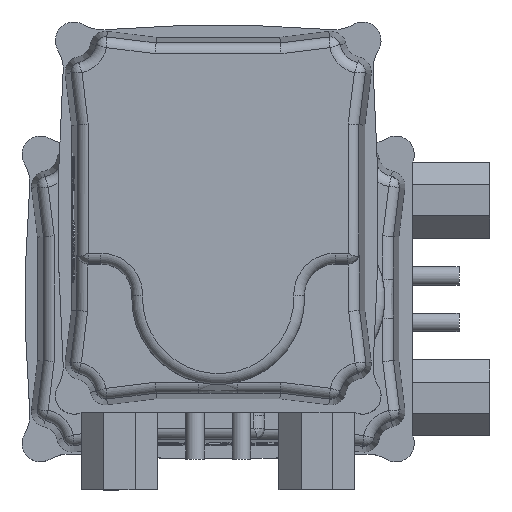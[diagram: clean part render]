
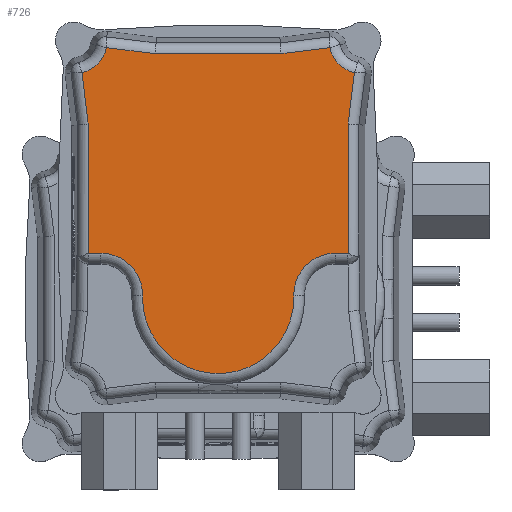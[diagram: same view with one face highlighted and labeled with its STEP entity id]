
A CAD part, top view. The second image highlights one B-rep face of the part: STEP entity #726.
In plain terms, the highlighted planar face has unit normal (0, 0, 1).
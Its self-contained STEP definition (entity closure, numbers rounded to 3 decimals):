
#726 = ADVANCED_FACE( '', ( #1937 ), #1938, .T. );
#1937 = FACE_OUTER_BOUND( '', #4175, .T. );
#1938 = PLANE( '', #4176 );
#4175 = EDGE_LOOP( '', ( #12072, #12073, #12074, #12075, #12076, #12077, #12078, #12079, #12080, #12081, #12082, #12083, #12084, #12085, #12086, #12087 ) );
#4176 = AXIS2_PLACEMENT_3D( '', #12088, #12089, #12090 );
#12072 = ORIENTED_EDGE( '', *, *, #17000, .T. );
#12073 = ORIENTED_EDGE( '', *, *, #17001, .T. );
#12074 = ORIENTED_EDGE( '', *, *, #17002, .T. );
#12075 = ORIENTED_EDGE( '', *, *, #17003, .T. );
#12076 = ORIENTED_EDGE( '', *, *, #17004, .T. );
#12077 = ORIENTED_EDGE( '', *, *, #17005, .T. );
#12078 = ORIENTED_EDGE( '', *, *, #17006, .T. );
#12079 = ORIENTED_EDGE( '', *, *, #17007, .T. );
#12080 = ORIENTED_EDGE( '', *, *, #17008, .T. );
#12081 = ORIENTED_EDGE( '', *, *, #17009, .T. );
#12082 = ORIENTED_EDGE( '', *, *, #17010, .T. );
#12083 = ORIENTED_EDGE( '', *, *, #17011, .T. );
#12084 = ORIENTED_EDGE( '', *, *, #17012, .T. );
#12085 = ORIENTED_EDGE( '', *, *, #17013, .T. );
#12086 = ORIENTED_EDGE( '', *, *, #17014, .T. );
#12087 = ORIENTED_EDGE( '', *, *, #17015, .T. );
#12088 = CARTESIAN_POINT( '', ( 47.227, -44.578, 84. ) );
#12089 = DIRECTION( '', ( 0., 0., 1. ) );
#12090 = DIRECTION( '', ( 1., 0., 0. ) );
#17000 = EDGE_CURVE( '', #19148, #19149, #19150, .T. );
#17001 = EDGE_CURVE( '', #19149, #19151, #19152, .T. );
#17002 = EDGE_CURVE( '', #19151, #19153, #19154, .F. );
#17003 = EDGE_CURVE( '', #19153, #19155, #19156, .T. );
#17004 = EDGE_CURVE( '', #19155, #19157, #19158, .T. );
#17005 = EDGE_CURVE( '', #19157, #19159, #19160, .T. );
#17006 = EDGE_CURVE( '', #19159, #19161, #19162, .T. );
#17007 = EDGE_CURVE( '', #19161, #19163, #19164, .F. );
#17008 = EDGE_CURVE( '', #19163, #19165, #19166, .T. );
#17009 = EDGE_CURVE( '', #19165, #19167, #19168, .F. );
#17010 = EDGE_CURVE( '', #19167, #19169, #19170, .T. );
#17011 = EDGE_CURVE( '', #19169, #19171, #19172, .T. );
#17012 = EDGE_CURVE( '', #19171, #19173, #19174, .T. );
#17013 = EDGE_CURVE( '', #19173, #19175, #19176, .T. );
#17014 = EDGE_CURVE( '', #19175, #19177, #19178, .F. );
#17015 = EDGE_CURVE( '', #19177, #19148, #19179, .T. );
#19148 = VERTEX_POINT( '', #22952 );
#19149 = VERTEX_POINT( '', #22953 );
#19150 = LINE( '', #22954, #22955 );
#19151 = VERTEX_POINT( '', #22956 );
#19152 = LINE( '', #22957, #22958 );
#19153 = VERTEX_POINT( '', #22959 );
#19154 = CIRCLE( '', #22960, 10.907 );
#19155 = VERTEX_POINT( '', #22961 );
#19156 = LINE( '', #22962, #22963 );
#19157 = VERTEX_POINT( '', #22964 );
#19158 = LINE( '', #22965, #22966 );
#19159 = VERTEX_POINT( '', #22967 );
#19160 = CIRCLE( '', #22968, 0.5 );
#19161 = VERTEX_POINT( '', #22969 );
#19162 = LINE( '', #22970, #22971 );
#19163 = VERTEX_POINT( '', #22972 );
#19164 = CIRCLE( '', #22973, 13.5 );
#19165 = VERTEX_POINT( '', #22974 );
#19166 = CIRCLE( '', #22975, 24.5 );
#19167 = VERTEX_POINT( '', #22976 );
#19168 = CIRCLE( '', #22977, 13.5 );
#19169 = VERTEX_POINT( '', #22978 );
#19170 = LINE( '', #22979, #22980 );
#19171 = VERTEX_POINT( '', #22981 );
#19172 = CIRCLE( '', #22982, 0.5 );
#19173 = VERTEX_POINT( '', #22983 );
#19174 = LINE( '', #22984, #22985 );
#19175 = VERTEX_POINT( '', #22986 );
#19176 = LINE( '', #22987, #22988 );
#19177 = VERTEX_POINT( '', #22989 );
#19178 = CIRCLE( '', #22990, 10.907 );
#19179 = LINE( '', #22991, #22992 );
#22952 = CARTESIAN_POINT( '', ( -53.093, 20.331, 84. ) );
#22953 = CARTESIAN_POINT( '', ( -53.093, -20.331, 84. ) );
#22954 = CARTESIAN_POINT( '', ( -53.093, -44.578, 84. ) );
#22955 = VECTOR( '', #29918, 1000. );
#22956 = CARTESIAN_POINT( '', ( -55.033, -36.126, 84. ) );
#22957 = CARTESIAN_POINT( '', ( -54.536, -32.083, 84. ) );
#22958 = VECTOR( '', #29919, 1000. );
#22959 = CARTESIAN_POINT( '', ( -46.913, -44.129, 84. ) );
#22960 = AXIS2_PLACEMENT_3D( '', #29920, #29921, #29922 );
#22961 = CARTESIAN_POINT( '', ( -30.331, -42.093, 84. ) );
#22962 = CARTESIAN_POINT( '', ( 45.775, -32.749, 84. ) );
#22963 = VECTOR( '', #29923, 1000. );
#22964 = CARTESIAN_POINT( '', ( 11.491, -42.093, 84. ) );
#22965 = CARTESIAN_POINT( '', ( 47.227, -42.093, 84. ) );
#22966 = VECTOR( '', #29924, 1000. );
#22967 = CARTESIAN_POINT( '', ( 11.5, -42., 84. ) );
#22968 = AXIS2_PLACEMENT_3D( '', #29925, #29926, #29927 );
#22969 = CARTESIAN_POINT( '', ( 11.5, -37.987, 84. ) );
#22970 = CARTESIAN_POINT( '', ( 11.5, -44.578, 84. ) );
#22971 = VECTOR( '', #29928, 1000. );
#22972 = CARTESIAN_POINT( '', ( 25.355, -24.492, 84. ) );
#22973 = AXIS2_PLACEMENT_3D( '', #29929, #29930, #29931 );
#22974 = CARTESIAN_POINT( '', ( 25.355, 24.492, 84. ) );
#22975 = AXIS2_PLACEMENT_3D( '', #29932, #29933, #29934 );
#22976 = CARTESIAN_POINT( '', ( 11.5, 37.987, 84. ) );
#22977 = AXIS2_PLACEMENT_3D( '', #29935, #29936, #29937 );
#22978 = CARTESIAN_POINT( '', ( 11.5, 42., 84. ) );
#22979 = CARTESIAN_POINT( '', ( 11.5, -44.578, 84. ) );
#22980 = VECTOR( '', #29938, 1000. );
#22981 = CARTESIAN_POINT( '', ( 11.491, 42.093, 84. ) );
#22982 = AXIS2_PLACEMENT_3D( '', #29939, #29940, #29941 );
#22983 = CARTESIAN_POINT( '', ( -30.331, 42.093, 84. ) );
#22984 = CARTESIAN_POINT( '', ( 47.227, 42.093, 84. ) );
#22985 = VECTOR( '', #29942, 1000. );
#22986 = CARTESIAN_POINT( '', ( -46.913, 44.129, 84. ) );
#22987 = CARTESIAN_POINT( '', ( 56.559, 31.425, 84. ) );
#22988 = VECTOR( '', #29943, 1000. );
#22989 = CARTESIAN_POINT( '', ( -55.033, 36.126, 84. ) );
#22990 = AXIS2_PLACEMENT_3D( '', #29944, #29945, #29946 );
#22991 = CARTESIAN_POINT( '', ( -43.752, -55.749, 84. ) );
#22992 = VECTOR( '', #29947, 1000. );
#29918 = DIRECTION( '', ( 0., -1., 0. ) );
#29919 = DIRECTION( '', ( -0.122, -0.993, 0. ) );
#29920 = CARTESIAN_POINT( '', ( -57.5, -46.75, 84. ) );
#29921 = DIRECTION( '', ( 0., 0., 1. ) );
#29922 = DIRECTION( '', ( 1., 0., 0. ) );
#29923 = DIRECTION( '', ( 0.993, 0.122, 0. ) );
#29924 = DIRECTION( '', ( 1., 0., 0. ) );
#29925 = CARTESIAN_POINT( '', ( 11., -42., 84. ) );
#29926 = DIRECTION( '', ( 0., 0., 1. ) );
#29927 = DIRECTION( '', ( 1., 0., 0. ) );
#29928 = DIRECTION( '', ( 0., 1., 0. ) );
#29929 = CARTESIAN_POINT( '', ( 25., -37.987, 84. ) );
#29930 = DIRECTION( '', ( 0., 0., 1. ) );
#29931 = DIRECTION( '', ( 1., 0., 0. ) );
#29932 = CARTESIAN_POINT( '', ( 26., 0., 84. ) );
#29933 = DIRECTION( '', ( 0., 0., 1. ) );
#29934 = DIRECTION( '', ( 1., 0., 0. ) );
#29935 = CARTESIAN_POINT( '', ( 25., 37.987, 84. ) );
#29936 = DIRECTION( '', ( 0., 0., 1. ) );
#29937 = DIRECTION( '', ( 1., 0., 0. ) );
#29938 = DIRECTION( '', ( 0., 1., 0. ) );
#29939 = CARTESIAN_POINT( '', ( 11., 42., 84. ) );
#29940 = DIRECTION( '', ( 0., 0., 1. ) );
#29941 = DIRECTION( '', ( 1., 0., 0. ) );
#29942 = DIRECTION( '', ( -1., 0., 0. ) );
#29943 = DIRECTION( '', ( -0.993, 0.122, 0. ) );
#29944 = CARTESIAN_POINT( '', ( -57.5, 46.75, 84. ) );
#29945 = DIRECTION( '', ( 0., 0., 1. ) );
#29946 = DIRECTION( '', ( 1., 0., 0. ) );
#29947 = DIRECTION( '', ( 0.122, -0.993, 0. ) );
